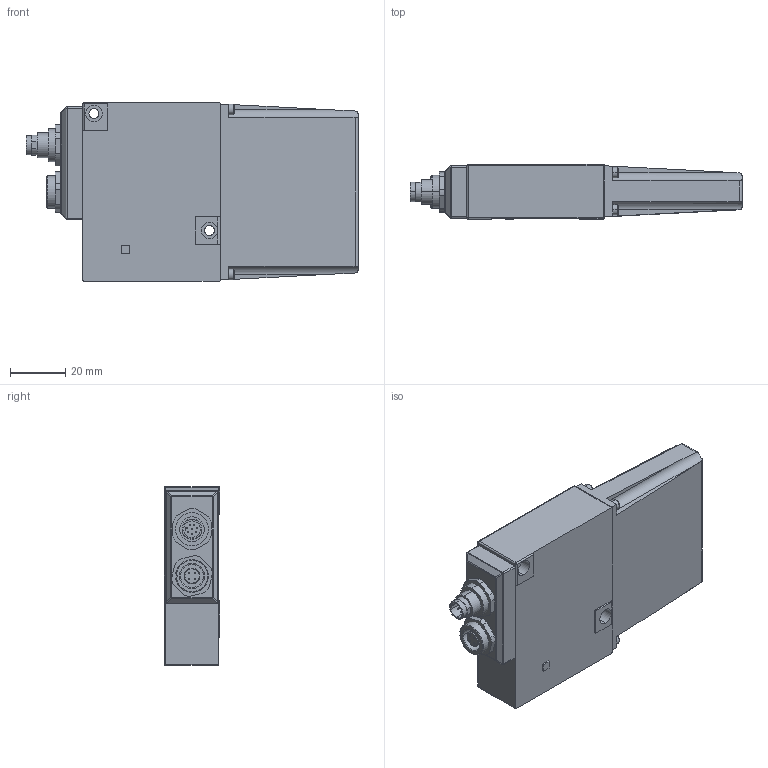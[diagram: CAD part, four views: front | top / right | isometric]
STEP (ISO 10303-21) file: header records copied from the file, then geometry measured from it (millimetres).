
FILE_DESCRIPTION (( 'STEP AP203' ), '1' );
FILE_NAME ('RF603_2CC + Áëåíäà.STEP', '2011-03-17T08:01:31', ( 'Ñåðãåé Ì' ), ( '' ), 'SwSTEP 2.0', 'SolidWorks 2009', '' );
FILE_SCHEMA (( 'CONFIG_CONTROL_DESIGN' ));
Length unit declared in the file: millimetre
Products named in the file (9): RF603_2CC + 鍛樇魡; RF603.00.04; RF603.00.51; RF603.00.80; Raz_09_0427_80_08_Default; ISO 14581_Ì2õ4_Default; DIN 912 _Ì2õ6_Default; G Raz_09_0427_80_08; Raz_09_0412_80_04_Default
Assembly tree (14 placements, depth 2):
  RF603_2CC + 鍛樇魡
    RF603.00.04
    G Raz_09_0427_80_08  x2
    DIN 912 _Ì2õ6_Default  x4
    Raz_09_0427_80_08_Default
    ISO 14581_Ì2õ4_Default  x3
    RF603.00.51
    Raz_09_0412_80_04_Default
    RF603.00.80
Bounding box: 120.7 x 20 x 65 mm (x, y, z)
Volume: 85561.1 mm3; surface area: 32471.7 mm2
Topology: 14 solids, 14 shells, 562 faces, 1330 edges, 840 vertices
Faces by surface type: plane 249, cylinder 242, cone 50, sphere 13, torus 8
Entity records: 14463 total; most frequent: CARTESIAN_POINT 2594, DIRECTION 2404, ORIENTED_EDGE 2122, EDGE_CURVE 1061, AXIS2_PLACEMENT_3D 926, VERTEX_POINT 678, LINE 552, VECTOR 552
